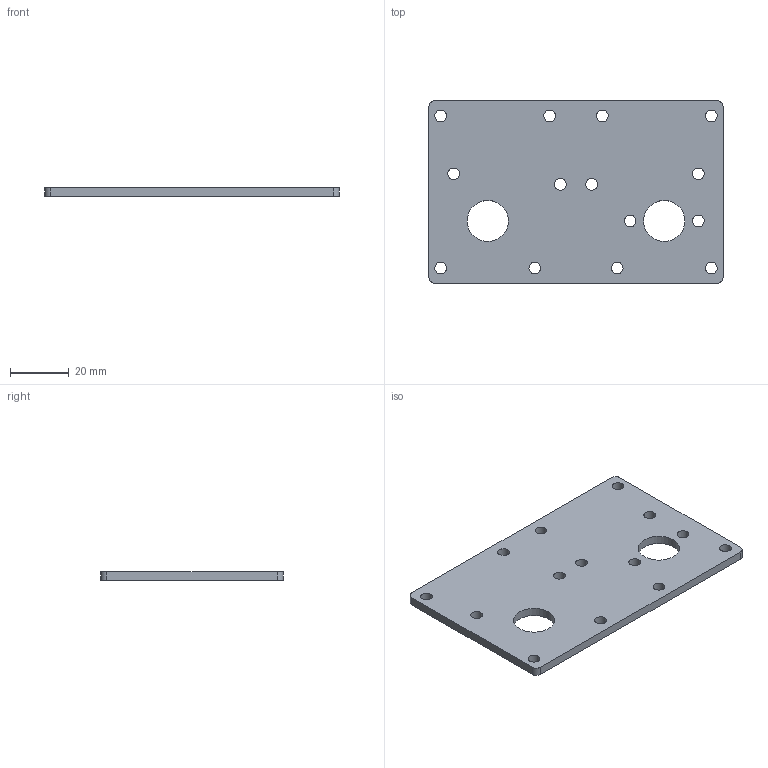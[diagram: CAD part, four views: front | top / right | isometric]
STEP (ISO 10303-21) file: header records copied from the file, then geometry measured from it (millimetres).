
FILE_DESCRIPTION( ('This file contains a STEP AP42 implementation' ,'as created by ZW3D STEP Interface translator.') ,'2;1' );
FILE_NAME( 'ServoHolder2.stp' ,'24 9 3.133324', (''), ('ZWCAD Software Co.'), 'Version 1.0', 'ZW3D to STEP translator', '' );
FILE_SCHEMA(('AUTOMOTIVE_DESIGN { 1 0 10303 214 1 1 1 1 }'));
Length unit declared in the file: millimetre
Products named in the file (2): 0; ServoHolder2
Bounding box: 100 x 62 x 3 mm (x, y, z)
Volume: 17138.3 mm3; surface area: 13178.9 mm2
Topology: 1 solids, 1 shells, 26 faces, 72 edges, 48 vertices
Faces by surface type: cylinder 20, plane 6
Full cylindrical faces by diameter (mm): 4 x14, 14 x2
Entity records: 976 total; most frequent: DIRECTION 166, CARTESIAN_POINT 147, ORIENTED_EDGE 144, EDGE_CURVE 72, AXIS2_PLACEMENT_3D 67, EDGE_LOOP 58, VERTEX_POINT 48, CIRCLE 40
